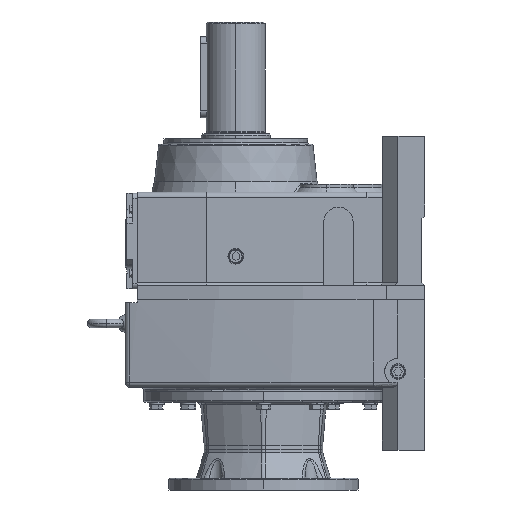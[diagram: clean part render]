
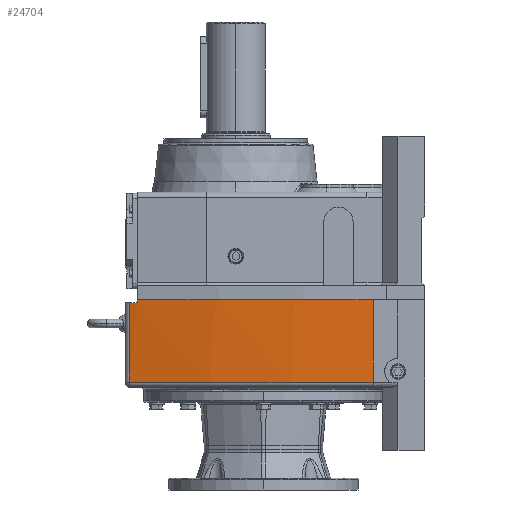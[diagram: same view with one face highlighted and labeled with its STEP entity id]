
A CAD part, left-side view. The second image highlights one B-rep face of the part: STEP entity #24704.
In plain terms, the highlighted cylindrical face has radius 1500 mm (diameter 3000 mm), a partial arc.
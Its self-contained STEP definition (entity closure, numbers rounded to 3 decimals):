
#856 = CIRCLE ( 'NONE', #858, 1500. ) ;
#858 = AXIS2_PLACEMENT_3D ( 'NONE', #12872, #12871, #12870 ) ;
#883 = VECTOR ( 'NONE', #14645, 1000. ) ;
#1002 = LINE ( 'NONE', #31929, #38635 ) ;
#1323 = LINE ( 'NONE', #2057, #15371 ) ;
#2056 = DIRECTION ( 'NONE',  ( 0., 0., -1. ) ) ;
#2057 = CARTESIAN_POINT ( 'NONE',  ( -218.874, 185., -448. ) ) ;
#4076 = LINE ( 'NONE', #14651, #883 ) ;
#4329 = ORIENTED_EDGE ( 'NONE', *, *, #31510, .F. ) ;
#4330 = ORIENTED_EDGE ( 'NONE', *, *, #23205, .T. ) ;
#4331 = ORIENTED_EDGE ( 'NONE', *, *, #31535, .T. ) ;
#4332 = ORIENTED_EDGE ( 'NONE', *, *, #23204, .T. ) ;
#4333 = ORIENTED_EDGE ( 'NONE', *, *, #29126, .T. ) ;
#4334 = ORIENTED_EDGE ( 'NONE', *, *, #16948, .T. ) ;
#4527 = VERTEX_POINT ( 'NONE', #5570 ) ;
#4528 = VERTEX_POINT ( 'NONE', #5569 ) ;
#4685 = VERTEX_POINT ( 'NONE', #5406 ) ;
#4688 = VERTEX_POINT ( 'NONE', #5403 ) ;
#4691 = VERTEX_POINT ( 'NONE', #5400 ) ;
#5400 = CARTESIAN_POINT ( 'NONE',  ( -218.874, 185., -283.5 ) ) ;
#5403 = CARTESIAN_POINT ( 'NONE',  ( -265.276, -258.733, -283.5 ) ) ;
#5406 = CARTESIAN_POINT ( 'NONE',  ( -265.276, -258.733, -438. ) ) ;
#5569 = CARTESIAN_POINT ( 'NONE',  ( -218.874, 185., -288.5 ) ) ;
#5570 = CARTESIAN_POINT ( 'NONE',  ( -214.741, 200.612, -288.5 ) ) ;
#7642 = AXIS2_PLACEMENT_3D ( 'NONE', #35600, #35599, #35598 ) ;
#7678 = CIRCLE ( 'NONE', #7642, 1500. ) ;
#10392 = VERTEX_POINT ( 'NONE', #37591 ) ;
#12870 = DIRECTION ( 'NONE',  ( -1., 0., 0. ) ) ;
#12871 = DIRECTION ( 'NONE',  ( 0., 0., 1. ) ) ;
#12872 = CARTESIAN_POINT ( 'NONE',  ( 1233.2, -191.138, -283.5 ) ) ;
#14645 = DIRECTION ( 'NONE',  ( 0., 0., 1. ) ) ;
#14651 = CARTESIAN_POINT ( 'NONE',  ( -265.276, -258.733, -448. ) ) ;
#15371 = VECTOR ( 'NONE', #2056, 1000. ) ;
#16948 = EDGE_CURVE ( 'NONE', #4691, #4528, #1323, .T. ) ;
#19374 = CYLINDRICAL_SURFACE ( 'NONE', #38558, 1500. ) ;
#19375 = FACE_OUTER_BOUND ( 'NONE', #22522, .T. ) ;
#20910 = DIRECTION ( 'NONE',  ( 0., 1., 0. ) ) ;
#20914 = DIRECTION ( 'NONE',  ( 0., 0., 1. ) ) ;
#20916 = CARTESIAN_POINT ( 'NONE',  ( 1233.2, -191.138, -448. ) ) ;
#22522 = EDGE_LOOP ( 'NONE', ( #4334, #4333, #4332, #4330, #4331, #4329 ) ) ;
#23204 = EDGE_CURVE ( 'NONE', #4527, #10392, #1002, .T. ) ;
#23205 = EDGE_CURVE ( 'NONE', #10392, #4685, #38609, .T. ) ;
#24704 = ADVANCED_FACE ( 'NONE', ( #19375 ), #19374, .T. ) ;
#29126 = EDGE_CURVE ( 'NONE', #4528, #4527, #7678, .T. ) ;
#31510 = EDGE_CURVE ( 'NONE', #4691, #4688, #856, .T. ) ;
#31535 = EDGE_CURVE ( 'NONE', #4685, #4688, #4076, .T. ) ;
#31923 = DIRECTION ( 'NONE',  ( 1., 0., 0. ) ) ;
#31924 = DIRECTION ( 'NONE',  ( 0., 0., 1. ) ) ;
#31926 = CARTESIAN_POINT ( 'NONE',  ( 1233.2, -191.138, -438. ) ) ;
#31927 = DIRECTION ( 'NONE',  ( 0., 0., -1. ) ) ;
#31929 = CARTESIAN_POINT ( 'NONE',  ( -214.741, 200.612, -448. ) ) ;
#35598 = DIRECTION ( 'NONE',  ( 1., 0., 0. ) ) ;
#35599 = DIRECTION ( 'NONE',  ( 0., 0., -1. ) ) ;
#35600 = CARTESIAN_POINT ( 'NONE',  ( 1233.2, -191.138, -288.5 ) ) ;
#37591 = CARTESIAN_POINT ( 'NONE',  ( -214.741, 200.612, -438. ) ) ;
#38558 = AXIS2_PLACEMENT_3D ( 'NONE', #20916, #20914, #20910 ) ;
#38571 = AXIS2_PLACEMENT_3D ( 'NONE', #31926, #31924, #31923 ) ;
#38609 = CIRCLE ( 'NONE', #38571, 1500. ) ;
#38635 = VECTOR ( 'NONE', #31927, 1000. ) ;
